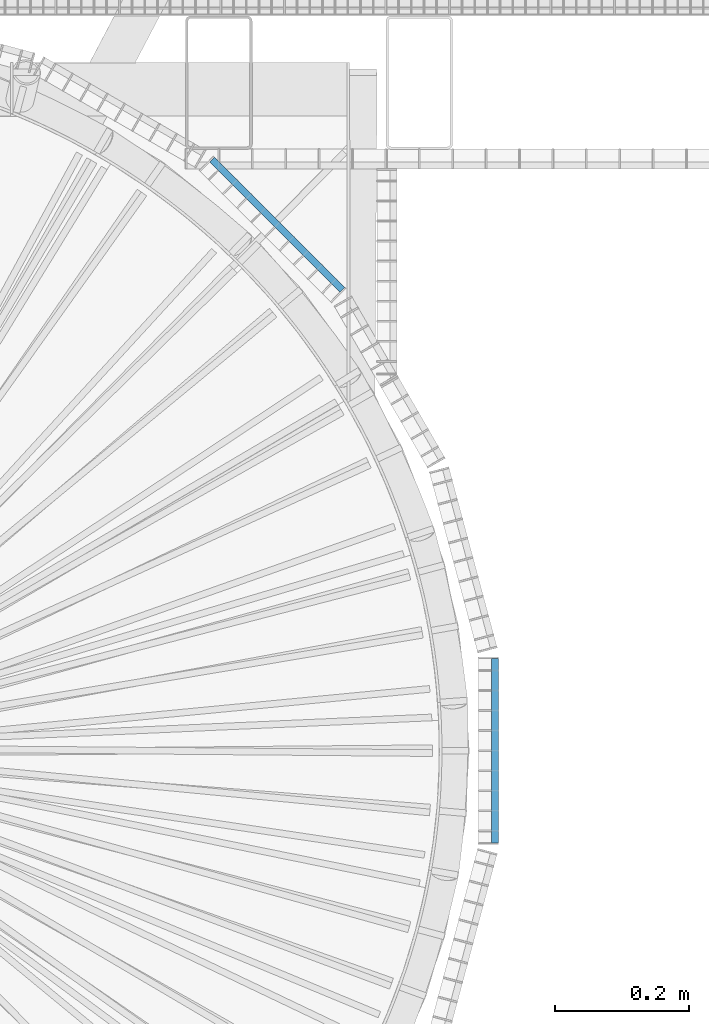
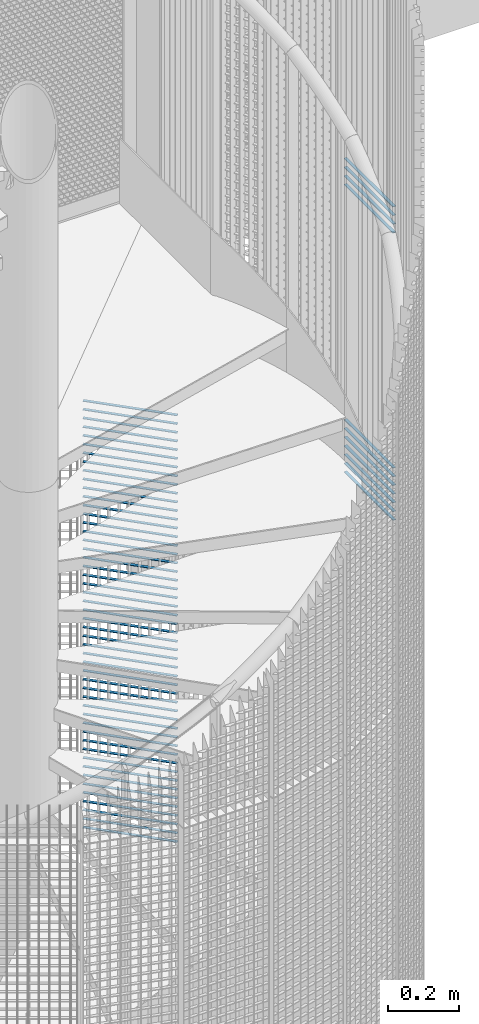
# One storey, part 285 of 1148: 61 beams, 2 elements without a shape of their own.
"""IFC2X3 building model written with IfcOpenShell, lengths in millimetres."""

import ifcopenshell
import ifcopenshell.guid

model = None  # the IFC model being written
_history = None  # IfcOwnerHistory: only IFC2X3 demands one
_inside = {}  # id of a spatial element -> (the spatial element, [elements in it])
_under = {}  # id of a project, library or spatial element -> (it, [spatial elements below it])
_declared = {}  # id of a project -> (the project, [libraries it declares])
_typed = {}  # id of a type object -> (the type object, [elements of that type])
_made_of = {}  # id of a material, layer set ... -> (it, [elements and type objects made of it])


def new_model(schema):
    """Start an empty IFC model of exactly this schema.

    Asked for "IFC4X3", IfcOpenShell would pick the latest addendum, in which some entities
    have other attributes; the version numbers below select the first issue.
    IFC2X3 requires an IfcOwnerHistory on every rooted entity: one is made here for all.
    """
    global model, _history
    if schema == "IFC4X3":
        model = ifcopenshell.file(schema_version=(4, 3, 0, 0))
    else:
        model = ifcopenshell.file(schema=schema)
    _inside.clear()
    _under.clear()
    _declared.clear()
    _typed.clear()
    _made_of.clear()
    _history = None
    if model.schema == "IFC2X3":
        org = make("IfcOrganization", Name="unknown")
        user = make(
            "IfcPersonAndOrganization",
            ThePerson=make("IfcPerson", FamilyName="unknown"),
            TheOrganization=org,
        )
        app = make(
            "IfcApplication",
            ApplicationDeveloper=org,
            Version="unknown",
            ApplicationFullName="unknown",
            ApplicationIdentifier="unknown",
        )
        _history = make(
            "IfcOwnerHistory",
            OwningUser=user,
            OwningApplication=app,
            ChangeAction="ADDED",
            CreationDate=0,
        )
    return model


def make(cls, **values):
    """One entity of the class cls with the attributes given. An attribute that is None is left unset."""
    return model.create_entity(
        cls, **{name: value for name, value in values.items() if value is not None}
    )


def rooted(cls, **values):
    """An entity with a GlobalId (a new one), such as an element, a storey or a relation."""
    return make(cls, GlobalId=ifcopenshell.guid.new(), OwnerHistory=_history, **values)


def si_unit(unit_type, name, prefix=None):
    """IfcSIUnit, for example si_unit("LENGTHUNIT", "METRE", prefix="MILLI")."""
    return make("IfcSIUnit", UnitType=unit_type, Prefix=prefix, Name=name)


def assignment(units):
    """IfcUnitAssignment: the units of a project."""
    return None if units is None else make("IfcUnitAssignment", Units=units)


def point(xyz):
    """IfcCartesianPoint."""
    return None if xyz is None else make("IfcCartesianPoint", Coordinates=xyz)


def direction(xyz):
    """IfcDirection."""
    return None if xyz is None else make("IfcDirection", DirectionRatios=xyz)


def frame(location, z_axis=None, x_axis=None):
    """IfcAxis2Placement3D, a coordinate frame: its origin and axes. An axis left out is left unset."""
    return make(
        "IfcAxis2Placement3D",
        Location=point(location),
        Axis=direction(z_axis),
        RefDirection=direction(x_axis),
    )


def frame_2d(location, x_axis=None):
    """IfcAxis2Placement2D, a coordinate frame in the plane: its origin and x axis."""
    return make(
        "IfcAxis2Placement2D", Location=point(location), RefDirection=direction(x_axis)
    )


def origin_with_axes():
    """The frame at (0, 0, 0) with the z axis (0, 0, 1) and the x axis (1, 0, 0) written out."""
    return frame((0.0, 0.0, 0.0), z_axis=(0.0, 0.0, 1.0), x_axis=(1.0, 0.0, 0.0))


def origin_2d_with_axis():
    """The frame at (0, 0) in the plane with the x axis (1, 0) written out."""
    return frame_2d((0.0, 0.0), x_axis=(1.0, 0.0))


def place(relative_to, where):
    """IfcLocalPlacement: puts the frame where relative to a parent placement (None: the world)."""
    return make(
        "IfcLocalPlacement", PlacementRelTo=relative_to, RelativePlacement=where
    )


def context(
    kind, dimensions, precision=None, world=None, true_north=None, identifier=None
):
    """IfcGeometricRepresentationContext, for example the 3D "Model" context."""
    return make(
        "IfcGeometricRepresentationContext",
        ContextIdentifier=identifier,
        ContextType=kind,
        CoordinateSpaceDimension=dimensions,
        Precision=precision,
        WorldCoordinateSystem=world,
        TrueNorth=true_north,
    )


def subcontext(parent, identifier, kind, view, scale=None):
    """IfcGeometricRepresentationSubContext, for example "Body" below "Model"."""
    return make(
        "IfcGeometricRepresentationSubContext",
        ContextIdentifier=identifier,
        ContextType=kind,
        ParentContext=parent,
        TargetScale=scale,
        TargetView=view,
    )


def project(units=None, contexts=None):
    """IfcProject with its units and contexts."""
    return rooted(
        "IfcProject",
        Name="project",
        RepresentationContexts=contexts,
        UnitsInContext=assignment(units),
    )


def spatial(cls, under=None, at=None, **own):
    """A site, building, storey or space (cls), placed at a placement, below another one or the project."""
    s = rooted(cls, ObjectPlacement=at, **own)
    if under is not None:
        _under.setdefault(under.id(), (under, []))[1].append(s)
    return s


def profile(cls, at=None, kind="AREA", **sizes):
    """A parametric profile (cls). Its sizes go by their IFC names, for example OverallWidth=200.0."""
    return make(cls, ProfileType=kind, Position=at, **sizes)


def rectangle(**sizes):
    """IfcRectangleProfileDef."""
    return profile("IfcRectangleProfileDef", **sizes)


def extrude(swept, where, along, depth):
    """IfcExtrudedAreaSolid: the profile swept, set in the frame where, extruded along a direction by depth."""
    return make(
        "IfcExtrudedAreaSolid",
        SweptArea=swept,
        Position=where,
        ExtrudedDirection=direction(along),
        Depth=depth,
    )


def shape(context_of_items, identifier, shape_type, items):
    """IfcShapeRepresentation: the items that make up one representation, for example the "Body"."""
    return make(
        "IfcShapeRepresentation",
        ContextOfItems=context_of_items,
        RepresentationIdentifier=identifier,
        RepresentationType=shape_type,
        Items=items,
    )


def material(Name=None, Category=None):
    """IfcMaterial."""
    return make("IfcMaterial", Name=Name, Category=Category)


def made_of(thing, what):
    """Note that an element or type object is made of a material, layer set ...; save() writes the relation."""
    if what is not None:
        _made_of.setdefault(what.id(), (what, []))[1].append(thing)
    return thing


def type_object(cls, material=None, **own):
    """A type object (cls), such as IfcWallType, which elements share."""
    return made_of(rooted(cls, **own), material)


def element(
    cls,
    number,
    at=None,
    inside=None,
    cuts=None,
    type_object=None,
    material=None,
    context=None,
    identifier="Body",
    shape_type=None,
    held_by="IfcProductDefinitionShape",
    body=None,
    shapes=None,
    **own,
):
    """One element of the class cls, such as IfcWall. Its Tag is "e" and its number.

    at: its placement. inside: the storey or other place that contains it. cuts: it is an
    opening in that element (IfcRelVoidsElement). A single representation is given by context,
    identifier, shape_type and body (its items); several are given by shapes. held_by: the class
    of the entity that holds the representations. save() writes the other relations.
    """
    e = rooted(cls, Tag="e%d" % number, ObjectPlacement=at, **own)
    if body is not None:
        shapes = [shape(context, identifier, shape_type, body)]
    if shapes is not None:
        e.Representation = make(held_by, Representations=shapes)
    if inside is not None:
        _inside.setdefault(inside.id(), (inside, []))[1].append(e)
    if cuts is not None:
        rooted(
            "IfcRelVoidsElement", RelatingBuildingElement=cuts, RelatedOpeningElement=e
        )
    if type_object is not None:
        _typed.setdefault(type_object.id(), (type_object, []))[1].append(e)
    return made_of(e, material)


def aggregate(whole, parts):
    """IfcRelAggregates: a whole, such as a stair, and the parts it consists of."""
    return rooted("IfcRelAggregates", RelatingObject=whole, RelatedObjects=parts)


def save(model, path):
    """Write the relations noted so far, then the file.

    IfcRelAggregates (storeys below a building ...), IfcRelContainedInSpatialStructure (elements
    in a storey), IfcRelDefinesByType, IfcRelAssociatesMaterial and IfcRelDeclares: one each for
    every whole, place, type object, material and project.
    """
    for whole, parts in _under.values():
        aggregate(whole, parts)
    for where, things in _inside.values():
        rooted(
            "IfcRelContainedInSpatialStructure",
            RelatedElements=things,
            RelatingStructure=where,
        )
    for kind, things in _typed.values():
        rooted("IfcRelDefinesByType", RelatedObjects=things, RelatingType=kind)
    for what, things in _made_of.values():
        rooted("IfcRelAssociatesMaterial", RelatedObjects=things, RelatingMaterial=what)
    for by, libraries in _declared.values():
        rooted("IfcRelDeclares", RelatingContext=by, RelatedDefinitions=libraries)
    model.write(path)


model = new_model("IFC2X3")

# Units and contexts
model_context = context("Model", 3, precision=1e-05, world=origin_with_axes())
body_context = subcontext(model_context, "Body", "Model", "MODEL_VIEW")
ifc_project = project(units=[si_unit("LENGTHUNIT", "METRE", prefix="MILLI"), si_unit("AREAUNIT", "SQUARE_METRE"), si_unit("VOLUMEUNIT", "CUBIC_METRE"), si_unit("MASSUNIT", "GRAM", prefix="KILO"), si_unit("TIMEUNIT", "SECOND"), si_unit("PLANEANGLEUNIT", "RADIAN"), si_unit("SOLIDANGLEUNIT", "STERADIAN"), si_unit("THERMODYNAMICTEMPERATUREUNIT", "DEGREE_CELSIUS"), si_unit("LUMINOUSINTENSITYUNIT", "LUMEN")], contexts=[model_context])

# Site, building, storey
site_placement = place(None, origin_with_axes())
site = spatial("IfcSite", under=ifc_project, at=site_placement, Name="Undefined", CompositionType="ELEMENT")
building_placement = place(site_placement, origin_with_axes())
building = spatial("IfcBuilding", under=site, at=building_placement, Name="Undefined", CompositionType="ELEMENT")
storey_placement = place(building_placement, origin_with_axes())
storey = spatial("IfcBuildingStorey", under=building, at=storey_placement, Name="Undefined", CompositionType="ELEMENT", Elevation=0.0)

# Assembly, beams
assembly_1_placement = place(storey_placement, origin_with_axes())
assembly_1 = element("IfcElementAssembly", 1, at=assembly_1_placement, inside=storey, Name="BORDURE", AssemblyPlace="NOTDEFINED", PredefinedType="NOTDEFINED")
ifc_material = material(Name="STEEL/S235JR")
beam_type = type_object("IfcBeamType", Name="PL2*10", PredefinedType="NOTDEFINED")
beam_1_placement = place(assembly_1_placement, frame((1113.47999999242, -137.996003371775, 7020.0), z_axis=(1.0, 0.0, 0.0), x_axis=(0.0, 1.0, 0.0)))
beam_1 = element("IfcBeam", 2, at=beam_1_placement, type_object=beam_type, material=ifc_material, Name="ENTRETOISE", context=body_context, shape_type="SweptSolid", body=[
    extrude(rectangle(XDim=2.0, YDim=10.0, at=origin_2d_with_axis()), frame((275.999999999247, 9.09494701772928e-13, 1.53210777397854e-14), z_axis=(-1.0, 0.0, 0.0), x_axis=(0.0, -1.0, 0.0)), (0.0, 0.0, 1.0), 276.0),
])
beam_2_placement = place(assembly_1_placement, frame((1113.47999999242, -137.996003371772, 6210.0), z_axis=(1.0, 0.0, 0.0), x_axis=(0.0, 1.0, 0.0)))
beam_2 = element("IfcBeam", 3, at=beam_2_placement, type_object=beam_type, material=ifc_material, Name="ENTRETOISE", context=body_context, shape_type="SweptSolid", body=[
    extrude(rectangle(XDim=2.0, YDim=10.0, at=origin_2d_with_axis()), frame((275.999999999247, 9.09494701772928e-13, 1.53210777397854e-14), z_axis=(-1.0, 0.0, 0.0), x_axis=(0.0, -1.0, 0.0)), (0.0, 0.0, 1.0), 276.0),
])
beam_3_placement = place(assembly_1_placement, frame((1113.47999999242, -137.996003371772, 6180.0), z_axis=(1.0, 0.0, 0.0), x_axis=(0.0, 1.0, 0.0)))
beam_3 = element("IfcBeam", 4, at=beam_3_placement, type_object=beam_type, material=ifc_material, Name="ENTRETOISE", context=body_context, shape_type="SweptSolid", body=[
    extrude(rectangle(XDim=2.0, YDim=10.0, at=origin_2d_with_axis()), frame((275.999999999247, 9.09494701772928e-13, 1.53210777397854e-14), z_axis=(-1.0, 0.0, 0.0), x_axis=(0.0, -1.0, 0.0)), (0.0, 0.0, 1.0), 276.0),
])
beam_4_placement = place(assembly_1_placement, frame((1113.47999999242, -137.996003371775, 7050.0), z_axis=(1.0, 0.0, 0.0), x_axis=(0.0, 1.0, 0.0)))
beam_4 = element("IfcBeam", 5, at=beam_4_placement, type_object=beam_type, material=ifc_material, Name="ENTRETOISE", context=body_context, shape_type="SweptSolid", body=[
    extrude(rectangle(XDim=2.0, YDim=10.0, at=origin_2d_with_axis()), frame((275.999999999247, 9.09494701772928e-13, 1.53210777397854e-14), z_axis=(-1.0, 0.0, 0.0), x_axis=(0.0, -1.0, 0.0)), (0.0, 0.0, 1.0), 276.0),
])
beam_5_placement = place(assembly_1_placement, frame((1113.47999999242, -137.996003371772, 6150.0), z_axis=(1.0, 0.0, 0.0), x_axis=(0.0, 1.0, 0.0)))
beam_5 = element("IfcBeam", 6, at=beam_5_placement, type_object=beam_type, material=ifc_material, Name="ENTRETOISE", context=body_context, shape_type="SweptSolid", body=[
    extrude(rectangle(XDim=2.0, YDim=10.0, at=origin_2d_with_axis()), frame((275.999999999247, 9.09494701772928e-13, 1.53210777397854e-14), z_axis=(-1.0, 0.0, 0.0), x_axis=(0.0, -1.0, 0.0)), (0.0, 0.0, 1.0), 276.0),
])
beam_6_placement = place(assembly_1_placement, frame((1113.47999999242, -137.996003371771, 6120.0), z_axis=(1.0, 0.0, 0.0), x_axis=(0.0, 1.0, 0.0)))
beam_6 = element("IfcBeam", 7, at=beam_6_placement, type_object=beam_type, material=ifc_material, Name="ENTRETOISE", context=body_context, shape_type="SweptSolid", body=[
    extrude(rectangle(XDim=2.0, YDim=10.0, at=origin_2d_with_axis()), frame((275.999999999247, 9.09494701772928e-13, 1.53210777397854e-14), z_axis=(-1.0, 0.0, 0.0), x_axis=(0.0, -1.0, 0.0)), (0.0, 0.0, 1.0), 276.0),
])
beam_7_placement = place(assembly_1_placement, frame((1113.47999999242, -137.996003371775, 7080.0), z_axis=(1.0, 0.0, 0.0), x_axis=(0.0, 1.0, 0.0)))
beam_7 = element("IfcBeam", 8, at=beam_7_placement, type_object=beam_type, material=ifc_material, Name="ENTRETOISE", context=body_context, shape_type="SweptSolid", body=[
    extrude(rectangle(XDim=2.0, YDim=10.0, at=origin_2d_with_axis()), frame((275.999999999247, 9.09494701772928e-13, 1.53210777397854e-14), z_axis=(-1.0, 0.0, 0.0), x_axis=(0.0, -1.0, 0.0)), (0.0, 0.0, 1.0), 276.0),
])
beam_8_placement = place(assembly_1_placement, frame((1113.47999999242, -137.996003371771, 6090.0), z_axis=(1.0, 0.0, 0.0), x_axis=(0.0, 1.0, 0.0)))
beam_8 = element("IfcBeam", 9, at=beam_8_placement, type_object=beam_type, material=ifc_material, Name="ENTRETOISE", context=body_context, shape_type="SweptSolid", body=[
    extrude(rectangle(XDim=2.0, YDim=10.0, at=origin_2d_with_axis()), frame((275.999999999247, 9.09494701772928e-13, 1.53210777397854e-14), z_axis=(-1.0, 0.0, 0.0), x_axis=(0.0, -1.0, 0.0)), (0.0, 0.0, 1.0), 276.0),
])
beam_9_placement = place(assembly_1_placement, frame((1113.47999999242, -137.996003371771, 6060.0), z_axis=(1.0, 0.0, 0.0), x_axis=(0.0, 1.0, 0.0)))
beam_9 = element("IfcBeam", 10, at=beam_9_placement, type_object=beam_type, material=ifc_material, Name="ENTRETOISE", context=body_context, shape_type="SweptSolid", body=[
    extrude(rectangle(XDim=2.0, YDim=10.0, at=origin_2d_with_axis()), frame((275.999999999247, 9.09494701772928e-13, 1.53210777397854e-14), z_axis=(-1.0, 0.0, 0.0), x_axis=(0.0, -1.0, 0.0)), (0.0, 0.0, 1.0), 276.0),
])
beam_10_placement = place(assembly_1_placement, frame((1113.47999999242, -137.996003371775, 7110.0), z_axis=(1.0, 0.0, 0.0), x_axis=(0.0, 1.0, 0.0)))
beam_10 = element("IfcBeam", 11, at=beam_10_placement, type_object=beam_type, material=ifc_material, Name="ENTRETOISE", context=body_context, shape_type="SweptSolid", body=[
    extrude(rectangle(XDim=2.0, YDim=10.0, at=origin_2d_with_axis()), frame((275.999999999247, 9.09494701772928e-13, 1.53210777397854e-14), z_axis=(-1.0, 0.0, 0.0), x_axis=(0.0, -1.0, 0.0)), (0.0, 0.0, 1.0), 276.0),
])
beam_11_placement = place(assembly_1_placement, frame((1113.47999999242, -137.99600337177, 6030.0), z_axis=(1.0, 0.0, 0.0), x_axis=(0.0, 1.0, 0.0)))
beam_11 = element("IfcBeam", 12, at=beam_11_placement, type_object=beam_type, material=ifc_material, Name="ENTRETOISE", context=body_context, shape_type="SweptSolid", body=[
    extrude(rectangle(XDim=2.0, YDim=10.0, at=origin_2d_with_axis()), frame((275.999999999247, 9.09494701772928e-13, 1.53210777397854e-14), z_axis=(-1.0, 0.0, 0.0), x_axis=(0.0, -1.0, 0.0)), (0.0, 0.0, 1.0), 276.0),
])
aggregate(assembly_1, [beam_1, beam_2, beam_3, beam_4, beam_5, beam_6, beam_7, beam_8, beam_9, beam_10, beam_11])

assembly_2_placement = place(storey_placement, origin_with_axes())
assembly_2 = element("IfcElementAssembly", 13, at=assembly_2_placement, inside=storey, Name="BORDURE", AssemblyPlace="NOTDEFINED", PredefinedType="NOTDEFINED")
beam_12_placement = place(assembly_2_placement, frame((884.927168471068, 689.771348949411, 5970.0), z_axis=(0.707106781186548, 0.707106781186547, 0.0), x_axis=(-0.707106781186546, 0.707106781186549, 0.0)))
beam_12 = element("IfcBeam", 14, at=beam_12_placement, type_object=beam_type, material=ifc_material, Name="ENTRETOISE", context=body_context, shape_type="SweptSolid", body=[
    extrude(rectangle(XDim=2.0, YDim=10.0, at=origin_2d_with_axis()), frame((275.999999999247, 9.09494701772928e-13, 1.53210777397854e-14), z_axis=(-1.0, 0.0, 0.0), x_axis=(0.0, -1.0, 0.0)), (0.0, 0.0, 1.0), 276.0),
])
beam_13_placement = place(assembly_2_placement, frame((884.927168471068, 689.771348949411, 5940.0), z_axis=(0.707106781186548, 0.707106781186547, 0.0), x_axis=(-0.707106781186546, 0.707106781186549, 0.0)))
beam_13 = element("IfcBeam", 15, at=beam_13_placement, type_object=beam_type, material=ifc_material, Name="ENTRETOISE", context=body_context, shape_type="SweptSolid", body=[
    extrude(rectangle(XDim=2.0, YDim=10.0, at=origin_2d_with_axis()), frame((275.999999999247, 9.09494701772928e-13, 1.53210777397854e-14), z_axis=(-1.0, 0.0, 0.0), x_axis=(0.0, -1.0, 0.0)), (0.0, 0.0, 1.0), 276.0),
])
beam_14_placement = place(assembly_2_placement, frame((884.927168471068, 689.771348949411, 5910.0), z_axis=(0.707106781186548, 0.707106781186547, 0.0), x_axis=(-0.707106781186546, 0.707106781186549, 0.0)))
beam_14 = element("IfcBeam", 16, at=beam_14_placement, type_object=beam_type, material=ifc_material, Name="ENTRETOISE", context=body_context, shape_type="SweptSolid", body=[
    extrude(rectangle(XDim=2.0, YDim=10.0, at=origin_2d_with_axis()), frame((275.999999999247, 9.09494701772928e-13, 1.53210777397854e-14), z_axis=(-1.0, 0.0, 0.0), x_axis=(0.0, -1.0, 0.0)), (0.0, 0.0, 1.0), 276.0),
])
beam_15_placement = place(assembly_2_placement, frame((884.927168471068, 689.771348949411, 5880.0), z_axis=(0.707106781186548, 0.707106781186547, 0.0), x_axis=(-0.707106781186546, 0.707106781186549, 0.0)))
beam_15 = element("IfcBeam", 17, at=beam_15_placement, type_object=beam_type, material=ifc_material, Name="ENTRETOISE", context=body_context, shape_type="SweptSolid", body=[
    extrude(rectangle(XDim=2.0, YDim=10.0, at=origin_2d_with_axis()), frame((275.999999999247, 9.09494701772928e-13, 1.53210777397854e-14), z_axis=(-1.0, 0.0, 0.0), x_axis=(0.0, -1.0, 0.0)), (0.0, 0.0, 1.0), 276.0),
])
beam_16_placement = place(assembly_2_placement, frame((884.927168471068, 689.771348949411, 5850.0), z_axis=(0.707106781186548, 0.707106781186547, 0.0), x_axis=(-0.707106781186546, 0.707106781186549, 0.0)))
beam_16 = element("IfcBeam", 18, at=beam_16_placement, type_object=beam_type, material=ifc_material, Name="ENTRETOISE", context=body_context, shape_type="SweptSolid", body=[
    extrude(rectangle(XDim=2.0, YDim=10.0, at=origin_2d_with_axis()), frame((275.999999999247, 9.09494701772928e-13, 1.53210777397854e-14), z_axis=(-1.0, 0.0, 0.0), x_axis=(0.0, -1.0, 0.0)), (0.0, 0.0, 1.0), 276.0),
])
beam_17_placement = place(assembly_2_placement, frame((884.927168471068, 689.771348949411, 5820.0), z_axis=(0.707106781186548, 0.707106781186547, 0.0), x_axis=(-0.707106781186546, 0.707106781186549, 0.0)))
beam_17 = element("IfcBeam", 19, at=beam_17_placement, type_object=beam_type, material=ifc_material, Name="ENTRETOISE", context=body_context, shape_type="SweptSolid", body=[
    extrude(rectangle(XDim=2.0, YDim=10.0, at=origin_2d_with_axis()), frame((275.999999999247, 9.09494701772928e-13, 1.53210777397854e-14), z_axis=(-1.0, 0.0, 0.0), x_axis=(0.0, -1.0, 0.0)), (0.0, 0.0, 1.0), 276.0),
])
beam_18_placement = place(assembly_2_placement, frame((884.927168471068, 689.771348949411, 5790.0), z_axis=(0.707106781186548, 0.707106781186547, 0.0), x_axis=(-0.707106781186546, 0.707106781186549, 0.0)))
beam_18 = element("IfcBeam", 20, at=beam_18_placement, type_object=beam_type, material=ifc_material, Name="ENTRETOISE", context=body_context, shape_type="SweptSolid", body=[
    extrude(rectangle(XDim=2.0, YDim=10.0, at=origin_2d_with_axis()), frame((275.999999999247, 9.09494701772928e-13, 1.53210777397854e-14), z_axis=(-1.0, 0.0, 0.0), x_axis=(0.0, -1.0, 0.0)), (0.0, 0.0, 1.0), 276.0),
])
beam_19_placement = place(assembly_2_placement, frame((884.927168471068, 689.771348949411, 5760.0), z_axis=(0.707106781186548, 0.707106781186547, 0.0), x_axis=(-0.707106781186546, 0.707106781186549, 0.0)))
beam_19 = element("IfcBeam", 21, at=beam_19_placement, type_object=beam_type, material=ifc_material, Name="ENTRETOISE", context=body_context, shape_type="SweptSolid", body=[
    extrude(rectangle(XDim=2.0, YDim=10.0, at=origin_2d_with_axis()), frame((275.999999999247, 9.09494701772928e-13, 1.53210777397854e-14), z_axis=(-1.0, 0.0, 0.0), x_axis=(0.0, -1.0, 0.0)), (0.0, 0.0, 1.0), 276.0),
])
beam_20_placement = place(assembly_2_placement, frame((884.927168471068, 689.771348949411, 5730.0), z_axis=(0.707106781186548, 0.707106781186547, 0.0), x_axis=(-0.707106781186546, 0.707106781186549, 0.0)))
beam_20 = element("IfcBeam", 22, at=beam_20_placement, type_object=beam_type, material=ifc_material, Name="ENTRETOISE", context=body_context, shape_type="SweptSolid", body=[
    extrude(rectangle(XDim=2.0, YDim=10.0, at=origin_2d_with_axis()), frame((275.999999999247, 9.09494701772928e-13, 1.53210777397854e-14), z_axis=(-1.0, 0.0, 0.0), x_axis=(0.0, -1.0, 0.0)), (0.0, 0.0, 1.0), 276.0),
])
beam_21_placement = place(assembly_2_placement, frame((884.927168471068, 689.771348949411, 5700.0), z_axis=(0.707106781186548, 0.707106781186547, 0.0), x_axis=(-0.707106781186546, 0.707106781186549, 0.0)))
beam_21 = element("IfcBeam", 23, at=beam_21_placement, type_object=beam_type, material=ifc_material, Name="ENTRETOISE", context=body_context, shape_type="SweptSolid", body=[
    extrude(rectangle(XDim=2.0, YDim=10.0, at=origin_2d_with_axis()), frame((275.999999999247, 9.09494701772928e-13, 1.53210777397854e-14), z_axis=(-1.0, 0.0, 0.0), x_axis=(0.0, -1.0, 0.0)), (0.0, 0.0, 1.0), 276.0),
])
beam_22_placement = place(assembly_2_placement, frame((884.927168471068, 689.771348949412, 5670.0), z_axis=(0.707106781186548, 0.707106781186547, 0.0), x_axis=(-0.707106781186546, 0.707106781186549, 0.0)))
beam_22 = element("IfcBeam", 24, at=beam_22_placement, type_object=beam_type, material=ifc_material, Name="ENTRETOISE", context=body_context, shape_type="SweptSolid", body=[
    extrude(rectangle(XDim=2.0, YDim=10.0, at=origin_2d_with_axis()), frame((275.999999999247, 9.09494701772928e-13, 1.53210777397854e-14), z_axis=(-1.0, 0.0, 0.0), x_axis=(0.0, -1.0, 0.0)), (0.0, 0.0, 1.0), 276.0),
])
beam_23_placement = place(assembly_2_placement, frame((884.927168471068, 689.771348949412, 5640.0), z_axis=(0.707106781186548, 0.707106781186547, 0.0), x_axis=(-0.707106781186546, 0.707106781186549, 0.0)))
beam_23 = element("IfcBeam", 25, at=beam_23_placement, type_object=beam_type, material=ifc_material, Name="ENTRETOISE", context=body_context, shape_type="SweptSolid", body=[
    extrude(rectangle(XDim=2.0, YDim=10.0, at=origin_2d_with_axis()), frame((275.999999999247, 9.09494701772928e-13, 1.53210777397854e-14), z_axis=(-1.0, 0.0, 0.0), x_axis=(0.0, -1.0, 0.0)), (0.0, 0.0, 1.0), 276.0),
])
beam_24_placement = place(assembly_2_placement, frame((884.927168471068, 689.771348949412, 5610.0), z_axis=(0.707106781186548, 0.707106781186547, 0.0), x_axis=(-0.707106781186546, 0.707106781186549, 0.0)))
beam_24 = element("IfcBeam", 26, at=beam_24_placement, type_object=beam_type, material=ifc_material, Name="ENTRETOISE", context=body_context, shape_type="SweptSolid", body=[
    extrude(rectangle(XDim=2.0, YDim=10.0, at=origin_2d_with_axis()), frame((275.999999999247, 9.09494701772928e-13, 1.53210777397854e-14), z_axis=(-1.0, 0.0, 0.0), x_axis=(0.0, -1.0, 0.0)), (0.0, 0.0, 1.0), 276.0),
])
beam_25_placement = place(assembly_2_placement, frame((884.927168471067, 689.771348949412, 5580.0), z_axis=(0.707106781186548, 0.707106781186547, 0.0), x_axis=(-0.707106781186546, 0.707106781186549, 0.0)))
beam_25 = element("IfcBeam", 27, at=beam_25_placement, type_object=beam_type, material=ifc_material, Name="ENTRETOISE", context=body_context, shape_type="SweptSolid", body=[
    extrude(rectangle(XDim=2.0, YDim=10.0, at=origin_2d_with_axis()), frame((275.999999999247, 9.09494701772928e-13, 1.53210777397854e-14), z_axis=(-1.0, 0.0, 0.0), x_axis=(0.0, -1.0, 0.0)), (0.0, 0.0, 1.0), 276.0),
])
beam_26_placement = place(assembly_2_placement, frame((884.927168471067, 689.771348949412, 5550.0), z_axis=(0.707106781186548, 0.707106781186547, 0.0), x_axis=(-0.707106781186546, 0.707106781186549, 0.0)))
beam_26 = element("IfcBeam", 28, at=beam_26_placement, type_object=beam_type, material=ifc_material, Name="ENTRETOISE", context=body_context, shape_type="SweptSolid", body=[
    extrude(rectangle(XDim=2.0, YDim=10.0, at=origin_2d_with_axis()), frame((275.999999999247, 9.09494701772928e-13, 1.53210777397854e-14), z_axis=(-1.0, 0.0, 0.0), x_axis=(0.0, -1.0, 0.0)), (0.0, 0.0, 1.0), 276.0),
])
beam_27_placement = place(assembly_2_placement, frame((884.927168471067, 689.771348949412, 5520.0), z_axis=(0.707106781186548, 0.707106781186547, 0.0), x_axis=(-0.707106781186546, 0.707106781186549, 0.0)))
beam_27 = element("IfcBeam", 29, at=beam_27_placement, type_object=beam_type, material=ifc_material, Name="ENTRETOISE", context=body_context, shape_type="SweptSolid", body=[
    extrude(rectangle(XDim=2.0, YDim=10.0, at=origin_2d_with_axis()), frame((275.999999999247, 9.09494701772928e-13, 1.53210777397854e-14), z_axis=(-1.0, 0.0, 0.0), x_axis=(0.0, -1.0, 0.0)), (0.0, 0.0, 1.0), 276.0),
])
beam_28_placement = place(assembly_2_placement, frame((884.927168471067, 689.771348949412, 5490.0), z_axis=(0.707106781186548, 0.707106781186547, 0.0), x_axis=(-0.707106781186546, 0.707106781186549, 0.0)))
beam_28 = element("IfcBeam", 30, at=beam_28_placement, type_object=beam_type, material=ifc_material, Name="ENTRETOISE", context=body_context, shape_type="SweptSolid", body=[
    extrude(rectangle(XDim=2.0, YDim=10.0, at=origin_2d_with_axis()), frame((275.999999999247, 9.09494701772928e-13, 1.53210777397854e-14), z_axis=(-1.0, 0.0, 0.0), x_axis=(0.0, -1.0, 0.0)), (0.0, 0.0, 1.0), 276.0),
])
beam_29_placement = place(assembly_2_placement, frame((884.927168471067, 689.771348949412, 5460.0), z_axis=(0.707106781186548, 0.707106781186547, 0.0), x_axis=(-0.707106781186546, 0.707106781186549, 0.0)))
beam_29 = element("IfcBeam", 31, at=beam_29_placement, type_object=beam_type, material=ifc_material, Name="ENTRETOISE", context=body_context, shape_type="SweptSolid", body=[
    extrude(rectangle(XDim=2.0, YDim=10.0, at=origin_2d_with_axis()), frame((275.999999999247, 9.09494701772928e-13, 1.53210777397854e-14), z_axis=(-1.0, 0.0, 0.0), x_axis=(0.0, -1.0, 0.0)), (0.0, 0.0, 1.0), 276.0),
])
beam_30_placement = place(assembly_2_placement, frame((884.927168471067, 689.771348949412, 5430.0), z_axis=(0.707106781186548, 0.707106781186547, 0.0), x_axis=(-0.707106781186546, 0.707106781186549, 0.0)))
beam_30 = element("IfcBeam", 32, at=beam_30_placement, type_object=beam_type, material=ifc_material, Name="ENTRETOISE", context=body_context, shape_type="SweptSolid", body=[
    extrude(rectangle(XDim=2.0, YDim=10.0, at=origin_2d_with_axis()), frame((275.999999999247, 9.09494701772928e-13, 1.53210777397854e-14), z_axis=(-1.0, 0.0, 0.0), x_axis=(0.0, -1.0, 0.0)), (0.0, 0.0, 1.0), 276.0),
])
beam_31_placement = place(assembly_2_placement, frame((884.927168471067, 689.771348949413, 5400.0), z_axis=(0.707106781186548, 0.707106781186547, 0.0), x_axis=(-0.707106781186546, 0.707106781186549, 0.0)))
beam_31 = element("IfcBeam", 33, at=beam_31_placement, type_object=beam_type, material=ifc_material, Name="ENTRETOISE", context=body_context, shape_type="SweptSolid", body=[
    extrude(rectangle(XDim=2.0, YDim=10.0, at=origin_2d_with_axis()), frame((275.999999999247, 9.09494701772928e-13, 1.53210777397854e-14), z_axis=(-1.0, 0.0, 0.0), x_axis=(0.0, -1.0, 0.0)), (0.0, 0.0, 1.0), 276.0),
])
beam_32_placement = place(assembly_2_placement, frame((884.927168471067, 689.771348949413, 5370.0), z_axis=(0.707106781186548, 0.707106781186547, 0.0), x_axis=(-0.707106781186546, 0.707106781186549, 0.0)))
beam_32 = element("IfcBeam", 34, at=beam_32_placement, type_object=beam_type, material=ifc_material, Name="ENTRETOISE", context=body_context, shape_type="SweptSolid", body=[
    extrude(rectangle(XDim=2.0, YDim=10.0, at=origin_2d_with_axis()), frame((275.999999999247, 9.09494701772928e-13, 1.53210777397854e-14), z_axis=(-1.0, 0.0, 0.0), x_axis=(0.0, -1.0, 0.0)), (0.0, 0.0, 1.0), 276.0),
])
beam_33_placement = place(assembly_2_placement, frame((884.927168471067, 689.771348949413, 5340.0), z_axis=(0.707106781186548, 0.707106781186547, 0.0), x_axis=(-0.707106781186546, 0.707106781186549, 0.0)))
beam_33 = element("IfcBeam", 35, at=beam_33_placement, type_object=beam_type, material=ifc_material, Name="ENTRETOISE", context=body_context, shape_type="SweptSolid", body=[
    extrude(rectangle(XDim=2.0, YDim=10.0, at=origin_2d_with_axis()), frame((275.999999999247, 9.09494701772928e-13, 1.53210777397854e-14), z_axis=(-1.0, 0.0, 0.0), x_axis=(0.0, -1.0, 0.0)), (0.0, 0.0, 1.0), 276.0),
])
beam_34_placement = place(assembly_2_placement, frame((884.927168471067, 689.771348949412, 5310.0), z_axis=(0.707106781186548, 0.707106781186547, 0.0), x_axis=(-0.707106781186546, 0.707106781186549, 0.0)))
beam_34 = element("IfcBeam", 36, at=beam_34_placement, type_object=beam_type, material=ifc_material, Name="ENTRETOISE", context=body_context, shape_type="SweptSolid", body=[
    extrude(rectangle(XDim=2.0, YDim=10.0, at=origin_2d_with_axis()), frame((275.999999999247, 9.09494701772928e-13, 1.53210777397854e-14), z_axis=(-1.0, 0.0, 0.0), x_axis=(0.0, -1.0, 0.0)), (0.0, 0.0, 1.0), 276.0),
])
beam_35_placement = place(assembly_2_placement, frame((884.927168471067, 689.771348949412, 5280.0), z_axis=(0.707106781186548, 0.707106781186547, 0.0), x_axis=(-0.707106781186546, 0.707106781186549, 0.0)))
beam_35 = element("IfcBeam", 37, at=beam_35_placement, type_object=beam_type, material=ifc_material, Name="ENTRETOISE", context=body_context, shape_type="SweptSolid", body=[
    extrude(rectangle(XDim=2.0, YDim=10.0, at=origin_2d_with_axis()), frame((275.999999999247, 9.09494701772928e-13, 1.53210777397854e-14), z_axis=(-1.0, 0.0, 0.0), x_axis=(0.0, -1.0, 0.0)), (0.0, 0.0, 1.0), 276.0),
])
beam_36_placement = place(assembly_2_placement, frame((884.927168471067, 689.771348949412, 5250.0), z_axis=(0.707106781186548, 0.707106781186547, 0.0), x_axis=(-0.707106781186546, 0.707106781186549, 0.0)))
beam_36 = element("IfcBeam", 38, at=beam_36_placement, type_object=beam_type, material=ifc_material, Name="ENTRETOISE", context=body_context, shape_type="SweptSolid", body=[
    extrude(rectangle(XDim=2.0, YDim=10.0, at=origin_2d_with_axis()), frame((275.999999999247, 9.09494701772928e-13, 1.53210777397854e-14), z_axis=(-1.0, 0.0, 0.0), x_axis=(0.0, -1.0, 0.0)), (0.0, 0.0, 1.0), 276.0),
])
beam_37_placement = place(assembly_2_placement, frame((884.927168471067, 689.771348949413, 5220.0), z_axis=(0.707106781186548, 0.707106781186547, 0.0), x_axis=(-0.707106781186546, 0.707106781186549, 0.0)))
beam_37 = element("IfcBeam", 39, at=beam_37_placement, type_object=beam_type, material=ifc_material, Name="ENTRETOISE", context=body_context, shape_type="SweptSolid", body=[
    extrude(rectangle(XDim=2.0, YDim=10.0, at=origin_2d_with_axis()), frame((275.999999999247, 9.09494701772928e-13, 1.53210777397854e-14), z_axis=(-1.0, 0.0, 0.0), x_axis=(0.0, -1.0, 0.0)), (0.0, 0.0, 1.0), 276.0),
])
beam_38_placement = place(assembly_2_placement, frame((884.927168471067, 689.771348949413, 5190.0), z_axis=(0.707106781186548, 0.707106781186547, 0.0), x_axis=(-0.707106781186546, 0.707106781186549, 0.0)))
beam_38 = element("IfcBeam", 40, at=beam_38_placement, type_object=beam_type, material=ifc_material, Name="ENTRETOISE", context=body_context, shape_type="SweptSolid", body=[
    extrude(rectangle(XDim=2.0, YDim=10.0, at=origin_2d_with_axis()), frame((275.999999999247, 9.09494701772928e-13, 1.53210777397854e-14), z_axis=(-1.0, 0.0, 0.0), x_axis=(0.0, -1.0, 0.0)), (0.0, 0.0, 1.0), 276.0),
])
beam_39_placement = place(assembly_2_placement, frame((884.927168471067, 689.771348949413, 5160.0), z_axis=(0.707106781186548, 0.707106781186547, 0.0), x_axis=(-0.707106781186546, 0.707106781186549, 0.0)))
beam_39 = element("IfcBeam", 41, at=beam_39_placement, type_object=beam_type, material=ifc_material, Name="ENTRETOISE", context=body_context, shape_type="SweptSolid", body=[
    extrude(rectangle(XDim=2.0, YDim=10.0, at=origin_2d_with_axis()), frame((275.999999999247, 9.09494701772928e-13, 1.53210777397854e-14), z_axis=(-1.0, 0.0, 0.0), x_axis=(0.0, -1.0, 0.0)), (0.0, 0.0, 1.0), 276.0),
])
beam_40_placement = place(assembly_2_placement, frame((884.927168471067, 689.771348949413, 5130.0), z_axis=(0.707106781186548, 0.707106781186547, 0.0), x_axis=(-0.707106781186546, 0.707106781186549, 0.0)))
beam_40 = element("IfcBeam", 42, at=beam_40_placement, type_object=beam_type, material=ifc_material, Name="ENTRETOISE", context=body_context, shape_type="SweptSolid", body=[
    extrude(rectangle(XDim=2.0, YDim=10.0, at=origin_2d_with_axis()), frame((275.999999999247, 9.09494701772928e-13, 1.53210777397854e-14), z_axis=(-1.0, 0.0, 0.0), x_axis=(0.0, -1.0, 0.0)), (0.0, 0.0, 1.0), 276.0),
])
beam_41_placement = place(assembly_2_placement, frame((884.927168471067, 689.771348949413, 5100.0), z_axis=(0.707106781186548, 0.707106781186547, 0.0), x_axis=(-0.707106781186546, 0.707106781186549, 0.0)))
beam_41 = element("IfcBeam", 43, at=beam_41_placement, type_object=beam_type, material=ifc_material, Name="ENTRETOISE", context=body_context, shape_type="SweptSolid", body=[
    extrude(rectangle(XDim=2.0, YDim=10.0, at=origin_2d_with_axis()), frame((275.999999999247, 9.09494701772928e-13, 1.53210777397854e-14), z_axis=(-1.0, 0.0, 0.0), x_axis=(0.0, -1.0, 0.0)), (0.0, 0.0, 1.0), 276.0),
])
beam_42_placement = place(assembly_2_placement, frame((884.927168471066, 689.771348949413, 5070.0), z_axis=(0.707106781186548, 0.707106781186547, 0.0), x_axis=(-0.707106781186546, 0.707106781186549, 0.0)))
beam_42 = element("IfcBeam", 44, at=beam_42_placement, type_object=beam_type, material=ifc_material, Name="ENTRETOISE", context=body_context, shape_type="SweptSolid", body=[
    extrude(rectangle(XDim=2.0, YDim=10.0, at=origin_2d_with_axis()), frame((275.999999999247, 9.09494701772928e-13, 1.53210777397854e-14), z_axis=(-1.0, 0.0, 0.0), x_axis=(0.0, -1.0, 0.0)), (0.0, 0.0, 1.0), 276.0),
])
beam_43_placement = place(assembly_2_placement, frame((884.927168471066, 689.771348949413, 5040.0), z_axis=(0.707106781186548, 0.707106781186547, 0.0), x_axis=(-0.707106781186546, 0.707106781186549, 0.0)))
beam_43 = element("IfcBeam", 45, at=beam_43_placement, type_object=beam_type, material=ifc_material, Name="ENTRETOISE", context=body_context, shape_type="SweptSolid", body=[
    extrude(rectangle(XDim=2.0, YDim=10.0, at=origin_2d_with_axis()), frame((275.999999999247, 9.09494701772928e-13, 1.53210777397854e-14), z_axis=(-1.0, 0.0, 0.0), x_axis=(0.0, -1.0, 0.0)), (0.0, 0.0, 1.0), 276.0),
])
beam_44_placement = place(assembly_2_placement, frame((884.927168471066, 689.771348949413, 5010.0), z_axis=(0.707106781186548, 0.707106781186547, 0.0), x_axis=(-0.707106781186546, 0.707106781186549, 0.0)))
beam_44 = element("IfcBeam", 46, at=beam_44_placement, type_object=beam_type, material=ifc_material, Name="ENTRETOISE", context=body_context, shape_type="SweptSolid", body=[
    extrude(rectangle(XDim=2.0, YDim=10.0, at=origin_2d_with_axis()), frame((275.999999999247, 9.09494701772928e-13, 1.53210777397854e-14), z_axis=(-1.0, 0.0, 0.0), x_axis=(0.0, -1.0, 0.0)), (0.0, 0.0, 1.0), 276.0),
])
beam_45_placement = place(assembly_2_placement, frame((884.927168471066, 689.771348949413, 4980.0), z_axis=(0.707106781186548, 0.707106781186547, 0.0), x_axis=(-0.707106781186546, 0.707106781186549, 0.0)))
beam_45 = element("IfcBeam", 47, at=beam_45_placement, type_object=beam_type, material=ifc_material, Name="ENTRETOISE", context=body_context, shape_type="SweptSolid", body=[
    extrude(rectangle(XDim=2.0, YDim=10.0, at=origin_2d_with_axis()), frame((275.999999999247, 9.09494701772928e-13, 1.53210777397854e-14), z_axis=(-1.0, 0.0, 0.0), x_axis=(0.0, -1.0, 0.0)), (0.0, 0.0, 1.0), 276.0),
])
beam_46_placement = place(assembly_2_placement, frame((884.927168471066, 689.771348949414, 4950.0), z_axis=(0.707106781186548, 0.707106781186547, 0.0), x_axis=(-0.707106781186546, 0.707106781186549, 0.0)))
beam_46 = element("IfcBeam", 48, at=beam_46_placement, type_object=beam_type, material=ifc_material, Name="ENTRETOISE", context=body_context, shape_type="SweptSolid", body=[
    extrude(rectangle(XDim=2.0, YDim=10.0, at=origin_2d_with_axis()), frame((275.999999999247, 9.09494701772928e-13, 1.53210777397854e-14), z_axis=(-1.0, 0.0, 0.0), x_axis=(0.0, -1.0, 0.0)), (0.0, 0.0, 1.0), 276.0),
])
beam_47_placement = place(assembly_2_placement, frame((884.927168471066, 689.771348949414, 4920.0), z_axis=(0.707106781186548, 0.707106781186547, 0.0), x_axis=(-0.707106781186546, 0.707106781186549, 0.0)))
beam_47 = element("IfcBeam", 49, at=beam_47_placement, type_object=beam_type, material=ifc_material, Name="ENTRETOISE", context=body_context, shape_type="SweptSolid", body=[
    extrude(rectangle(XDim=2.0, YDim=10.0, at=origin_2d_with_axis()), frame((275.999999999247, 9.09494701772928e-13, 1.53210777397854e-14), z_axis=(-1.0, 0.0, 0.0), x_axis=(0.0, -1.0, 0.0)), (0.0, 0.0, 1.0), 276.0),
])
beam_48_placement = place(assembly_2_placement, frame((884.927168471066, 689.771348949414, 4890.0), z_axis=(0.707106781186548, 0.707106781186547, 0.0), x_axis=(-0.707106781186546, 0.707106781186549, 0.0)))
beam_48 = element("IfcBeam", 50, at=beam_48_placement, type_object=beam_type, material=ifc_material, Name="ENTRETOISE", context=body_context, shape_type="SweptSolid", body=[
    extrude(rectangle(XDim=2.0, YDim=10.0, at=origin_2d_with_axis()), frame((275.999999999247, 9.09494701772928e-13, 1.53210777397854e-14), z_axis=(-1.0, 0.0, 0.0), x_axis=(0.0, -1.0, 0.0)), (0.0, 0.0, 1.0), 276.0),
])
beam_49_placement = place(assembly_2_placement, frame((884.927168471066, 689.771348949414, 4860.0), z_axis=(0.707106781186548, 0.707106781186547, 0.0), x_axis=(-0.707106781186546, 0.707106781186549, 0.0)))
beam_49 = element("IfcBeam", 51, at=beam_49_placement, type_object=beam_type, material=ifc_material, Name="ENTRETOISE", context=body_context, shape_type="SweptSolid", body=[
    extrude(rectangle(XDim=2.0, YDim=10.0, at=origin_2d_with_axis()), frame((275.999999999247, 9.09494701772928e-13, 1.53210777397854e-14), z_axis=(-1.0, 0.0, 0.0), x_axis=(0.0, -1.0, 0.0)), (0.0, 0.0, 1.0), 276.0),
])
beam_50_placement = place(assembly_2_placement, frame((884.927168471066, 689.771348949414, 4830.0), z_axis=(0.707106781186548, 0.707106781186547, 0.0), x_axis=(-0.707106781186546, 0.707106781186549, 0.0)))
beam_50 = element("IfcBeam", 52, at=beam_50_placement, type_object=beam_type, material=ifc_material, Name="ENTRETOISE", context=body_context, shape_type="SweptSolid", body=[
    extrude(rectangle(XDim=2.0, YDim=10.0, at=origin_2d_with_axis()), frame((275.999999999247, 9.09494701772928e-13, 1.53210777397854e-14), z_axis=(-1.0, 0.0, 0.0), x_axis=(0.0, -1.0, 0.0)), (0.0, 0.0, 1.0), 276.0),
])
beam_51_placement = place(assembly_2_placement, frame((884.927168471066, 689.771348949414, 4800.0), z_axis=(0.707106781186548, 0.707106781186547, 0.0), x_axis=(-0.707106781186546, 0.707106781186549, 0.0)))
beam_51 = element("IfcBeam", 53, at=beam_51_placement, type_object=beam_type, material=ifc_material, Name="ENTRETOISE", context=body_context, shape_type="SweptSolid", body=[
    extrude(rectangle(XDim=2.0, YDim=10.0, at=origin_2d_with_axis()), frame((275.999999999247, 9.09494701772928e-13, 1.53210777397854e-14), z_axis=(-1.0, 0.0, 0.0), x_axis=(0.0, -1.0, 0.0)), (0.0, 0.0, 1.0), 276.0),
])
beam_52_placement = place(assembly_2_placement, frame((884.927168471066, 689.771348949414, 4770.0), z_axis=(0.707106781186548, 0.707106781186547, 0.0), x_axis=(-0.707106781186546, 0.707106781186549, 0.0)))
beam_52 = element("IfcBeam", 54, at=beam_52_placement, type_object=beam_type, material=ifc_material, Name="ENTRETOISE", context=body_context, shape_type="SweptSolid", body=[
    extrude(rectangle(XDim=2.0, YDim=10.0, at=origin_2d_with_axis()), frame((275.999999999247, 9.09494701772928e-13, 1.53210777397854e-14), z_axis=(-1.0, 0.0, 0.0), x_axis=(0.0, -1.0, 0.0)), (0.0, 0.0, 1.0), 276.0),
])
beam_53_placement = place(assembly_2_placement, frame((884.927168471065, 689.771348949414, 4740.0), z_axis=(0.707106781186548, 0.707106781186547, 0.0), x_axis=(-0.707106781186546, 0.707106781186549, 0.0)))
beam_53 = element("IfcBeam", 55, at=beam_53_placement, type_object=beam_type, material=ifc_material, Name="ENTRETOISE", context=body_context, shape_type="SweptSolid", body=[
    extrude(rectangle(XDim=2.0, YDim=10.0, at=origin_2d_with_axis()), frame((275.999999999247, 9.09494701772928e-13, 1.53210777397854e-14), z_axis=(-1.0, 0.0, 0.0), x_axis=(0.0, -1.0, 0.0)), (0.0, 0.0, 1.0), 276.0),
])
beam_54_placement = place(assembly_2_placement, frame((884.927168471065, 689.771348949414, 4710.0), z_axis=(0.707106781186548, 0.707106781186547, 0.0), x_axis=(-0.707106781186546, 0.707106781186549, 0.0)))
beam_54 = element("IfcBeam", 56, at=beam_54_placement, type_object=beam_type, material=ifc_material, Name="ENTRETOISE", context=body_context, shape_type="SweptSolid", body=[
    extrude(rectangle(XDim=2.0, YDim=10.0, at=origin_2d_with_axis()), frame((275.999999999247, 9.09494701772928e-13, 1.53210777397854e-14), z_axis=(-1.0, 0.0, 0.0), x_axis=(0.0, -1.0, 0.0)), (0.0, 0.0, 1.0), 276.0),
])
beam_55_placement = place(assembly_2_placement, frame((884.927168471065, 689.771348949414, 4680.0), z_axis=(0.707106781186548, 0.707106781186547, 0.0), x_axis=(-0.707106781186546, 0.707106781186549, 0.0)))
beam_55 = element("IfcBeam", 57, at=beam_55_placement, type_object=beam_type, material=ifc_material, Name="ENTRETOISE", context=body_context, shape_type="SweptSolid", body=[
    extrude(rectangle(XDim=2.0, YDim=10.0, at=origin_2d_with_axis()), frame((275.999999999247, 9.09494701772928e-13, 1.53210777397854e-14), z_axis=(-1.0, 0.0, 0.0), x_axis=(0.0, -1.0, 0.0)), (0.0, 0.0, 1.0), 276.0),
])
beam_56_placement = place(assembly_2_placement, frame((884.927168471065, 689.771348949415, 4650.0), z_axis=(0.707106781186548, 0.707106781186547, 0.0), x_axis=(-0.707106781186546, 0.707106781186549, 0.0)))
beam_56 = element("IfcBeam", 58, at=beam_56_placement, type_object=beam_type, material=ifc_material, Name="ENTRETOISE", context=body_context, shape_type="SweptSolid", body=[
    extrude(rectangle(XDim=2.0, YDim=10.0, at=origin_2d_with_axis()), frame((275.999999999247, 9.09494701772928e-13, 1.53210777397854e-14), z_axis=(-1.0, 0.0, 0.0), x_axis=(0.0, -1.0, 0.0)), (0.0, 0.0, 1.0), 276.0),
])
beam_57_placement = place(assembly_2_placement, frame((884.927168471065, 689.771348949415, 4620.0), z_axis=(0.707106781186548, 0.707106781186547, 0.0), x_axis=(-0.707106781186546, 0.707106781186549, 0.0)))
beam_57 = element("IfcBeam", 59, at=beam_57_placement, type_object=beam_type, material=ifc_material, Name="ENTRETOISE", context=body_context, shape_type="SweptSolid", body=[
    extrude(rectangle(XDim=2.0, YDim=10.0, at=origin_2d_with_axis()), frame((275.999999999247, 9.09494701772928e-13, 1.53210777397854e-14), z_axis=(-1.0, 0.0, 0.0), x_axis=(0.0, -1.0, 0.0)), (0.0, 0.0, 1.0), 276.0),
])
beam_58_placement = place(assembly_2_placement, frame((884.927168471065, 689.771348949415, 4590.0), z_axis=(0.707106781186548, 0.707106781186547, 0.0), x_axis=(-0.707106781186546, 0.707106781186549, 0.0)))
beam_58 = element("IfcBeam", 60, at=beam_58_placement, type_object=beam_type, material=ifc_material, Name="ENTRETOISE", context=body_context, shape_type="SweptSolid", body=[
    extrude(rectangle(XDim=2.0, YDim=10.0, at=origin_2d_with_axis()), frame((275.999999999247, 9.09494701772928e-13, 1.53210777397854e-14), z_axis=(-1.0, 0.0, 0.0), x_axis=(0.0, -1.0, 0.0)), (0.0, 0.0, 1.0), 276.0),
])
beam_59_placement = place(assembly_2_placement, frame((884.927168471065, 689.771348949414, 4560.0), z_axis=(0.707106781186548, 0.707106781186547, 0.0), x_axis=(-0.707106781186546, 0.707106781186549, 0.0)))
beam_59 = element("IfcBeam", 61, at=beam_59_placement, type_object=beam_type, material=ifc_material, Name="ENTRETOISE", context=body_context, shape_type="SweptSolid", body=[
    extrude(rectangle(XDim=2.0, YDim=10.0, at=origin_2d_with_axis()), frame((275.999999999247, 9.09494701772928e-13, 1.53210777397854e-14), z_axis=(-1.0, 0.0, 0.0), x_axis=(0.0, -1.0, 0.0)), (0.0, 0.0, 1.0), 276.0),
])
beam_60_placement = place(assembly_2_placement, frame((884.927168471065, 689.771348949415, 4530.0), z_axis=(0.707106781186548, 0.707106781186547, 0.0), x_axis=(-0.707106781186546, 0.707106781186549, 0.0)))
beam_60 = element("IfcBeam", 62, at=beam_60_placement, type_object=beam_type, material=ifc_material, Name="ENTRETOISE", context=body_context, shape_type="SweptSolid", body=[
    extrude(rectangle(XDim=2.0, YDim=10.0, at=origin_2d_with_axis()), frame((275.999999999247, 9.09494701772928e-13, 1.53210777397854e-14), z_axis=(-1.0, 0.0, 0.0), x_axis=(0.0, -1.0, 0.0)), (0.0, 0.0, 1.0), 276.0),
])
beam_61_placement = place(assembly_2_placement, frame((884.927168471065, 689.771348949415, 4500.0), z_axis=(0.707106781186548, 0.707106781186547, 0.0), x_axis=(-0.707106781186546, 0.707106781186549, 0.0)))
beam_61 = element("IfcBeam", 63, at=beam_61_placement, type_object=beam_type, material=ifc_material, Name="ENTRETOISE", context=body_context, shape_type="SweptSolid", body=[
    extrude(rectangle(XDim=2.0, YDim=10.0, at=origin_2d_with_axis()), frame((275.999999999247, 9.09494701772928e-13, 1.53210777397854e-14), z_axis=(-1.0, 0.0, 0.0), x_axis=(0.0, -1.0, 0.0)), (0.0, 0.0, 1.0), 276.0),
])
aggregate(assembly_2, [beam_12, beam_13, beam_14, beam_15, beam_16, beam_17, beam_18, beam_19, beam_20, beam_21, beam_22, beam_23, beam_24, beam_25, beam_26, beam_27, beam_28, beam_29, beam_30, beam_31, beam_32, beam_33, beam_34, beam_35, beam_36, beam_37, beam_38, beam_39, beam_40, beam_41, beam_42, beam_43, beam_44, beam_45, beam_46, beam_47, beam_48, beam_49, beam_50, beam_51, beam_52, beam_53, beam_54, beam_55, beam_56, beam_57, beam_58, beam_59, beam_60, beam_61])

save(model, "model.ifc")
